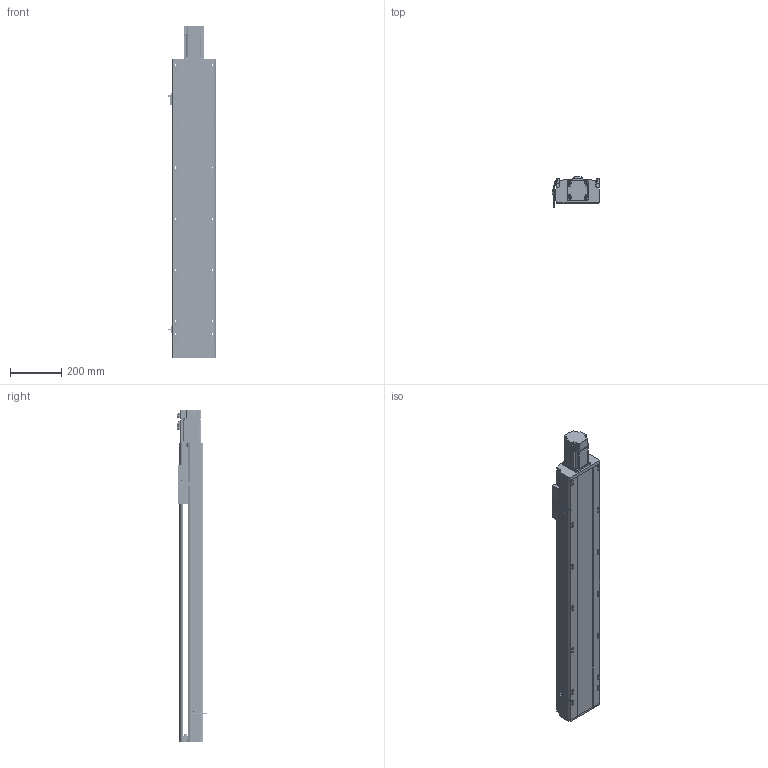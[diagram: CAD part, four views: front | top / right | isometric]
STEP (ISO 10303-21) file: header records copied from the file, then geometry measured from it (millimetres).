
FILE_DESCRIPTION (( 'STEP AP214' ), '1' );
FILE_NAME ('CTH170-900.STEP', '2019-11-25T09:01:44', ( '微软用户' ), ( '微软中国' ), 'SwSTEP 2.0', 'SolidWorks 2017', '' );
FILE_SCHEMA (( 'AUTOMOTIVE_DESIGN' ));
Length unit declared in the file: millimetre
Products named in the file (32): 170萇儂啣; CT17耀郪-覜茼んえ; 170傷啣; M6-L20囀鞠褒蹟佪; EGH20CA; 蚾饜极3^CTH170-L10-200; M5-L20囀鞠褒蹟佪-BR L; M4-L10囀鞠褒蹟佪-BR L; M5-L10囀鞠褒蹟佪; 坶踡蹟簽M15x1; EGH20CA_BLOCK; 潔路遠COL15-A; EG20_RAIL; MISUMI_B7002-DB_盄俶絳砃粣; 170賑怢; BEARING_MISUMI_B7002-DB_盄俶絳砃粣; 170裔啣^CTH170-L10-200; 錨璃8^蚾饜极3_CTH170-L10-200; 錨璃2; 复件 轴承座^装配体3_CTH170-L10-200; 佪話盓傅釱^CTH170-L10-200; CTH170-900; M5-L16囀鞠褒蹟佪; 遣喳蝶15x12x8-BR L; 支撑座^丝杠支撑座_CTH170-L10-200; B6002Z; _C-BSST2005_n; SFS2005-411-SZC; SFH2010佪裝; M3-L8囀鞠褒蹟佪; 80EMA-016A; EE-SX672峚倰換覜ん
Assembly tree (79 placements, depth 4):
  CTH170-900
    錨璃2
    170裔啣^CTH170-L10-200
    170賑怢
    EGH20CA  x2
      EG20_RAIL
      EGH20CA_BLOCK
      M5-L10囀鞠褒蹟佪
      M5-L20囀鞠褒蹟佪-BR L
    170傷啣
    170萇儂啣
    80EMA-016A
    SFS2005-411-SZC
      SFH2010佪裝
    _C-BSST2005_n
    佪話盓傅釱^CTH170-L10-200
      B6002Z
      支撑座^丝杠支撑座_CTH170-L10-200
      遣喳蝶15x12x8-BR L  x2
      M5-L16囀鞠褒蹟佪  x2
    蚾饜极3^CTH170-L10-200
      复件 轴承座^装配体3_CTH170-L10-200
      錨璃8^蚾饜极3_CTH170-L10-200
      MISUMI_B7002-DB_盄俶絳砃粣
        BEARING_MISUMI_B7002-DB_盄俶絳砃粣  x2
      潔路遠COL15-A  x2
      坶踡蹟簽M15x1
      M5-L16囀鞠褒蹟佪  x6
      M4-L10囀鞠褒蹟佪-BR L  x4
    遣喳蝶15x12x8-BR L  x2
    M6-L20囀鞠褒蹟佪  x4
    M4-L10囀鞠褒蹟佪-BR L  x10
    M5-L16囀鞠褒蹟佪  x4
    CT17耀郪-覜茼んえ
    EE-SX672峚倰換覜ん  x2
    M3-L8囀鞠褒蹟佪  x4
Bounding box: 183.7 x 117.95 x 1296 mm (x, y, z)
Volume: 7367740.4 mm3; surface area: 2285415 mm2
Topology: 91 solids, 92 shells, 5757 faces, 15155 edges, 9658 vertices
Faces by surface type: plane 3138, cylinder 1588, cone 649, bspline 342, torus 40
Entity records: 104284 total; most frequent: CARTESIAN_POINT 22157, ORIENTED_EDGE 15004, DIRECTION 14649, EDGE_CURVE 7502, AXIS2_PLACEMENT_3D 5136, VERTEX_POINT 4878, VECTOR 4377, LINE 4377
